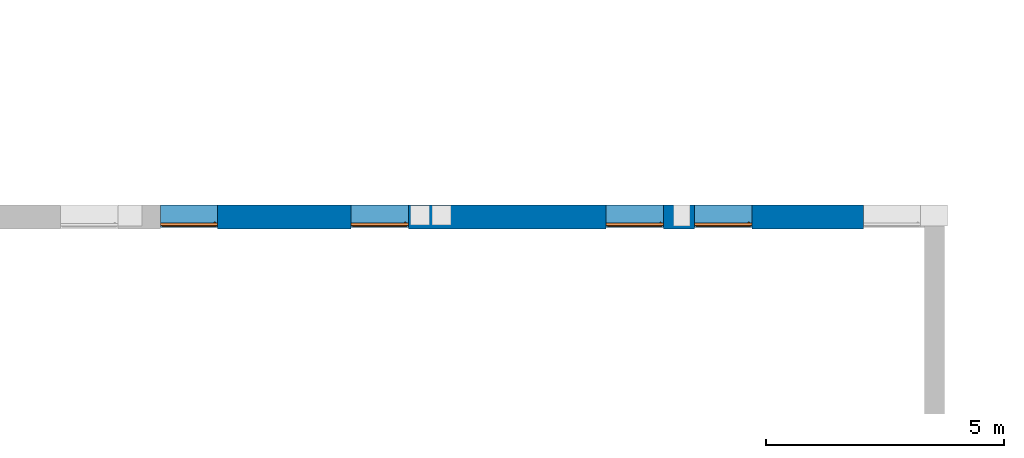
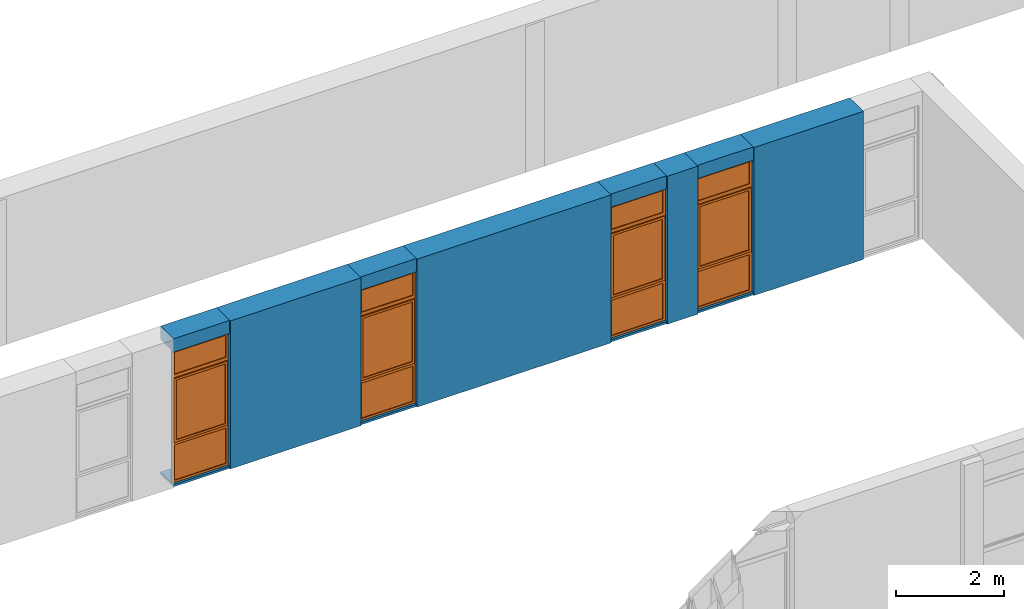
# One storey, part 7 of 11: 8 walls, 4 proxies, 4 openings.
"""IFC2X3 building model written with IfcOpenShell, lengths in millimetres."""

from ifc_helpers import new_model, entity, si_unit, converted_unit, derived_unit, money_unit, direction, frame, origin_with_axes, origin_2d_with_axis, place, context, subcontext, project, spatial, polyline, rectangle, outline, extrude, open_shell, faceted_brep, surface_model, source, transform, mapped, material, layer, layer_set, layer_usage, type_object, element, fill, save


model = new_model("IFC2X3")

# Units and contexts
model_context = context("Model", 3, precision=0.01, world=origin_with_axes(), true_north=direction((0.0, 1.0)))
body_context = subcontext(model_context, "Body", "Model", "MODEL_VIEW")
ifc_project = project(units=[si_unit("LENGTHUNIT", "METRE", prefix="MILLI"), si_unit("AREAUNIT", "SQUARE_METRE"), si_unit("VOLUMEUNIT", "CUBIC_METRE"), converted_unit("PLANEANGLEUNIT", "DEGREE", entity("IfcPlaneAngleMeasure", 0.0174532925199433), si_unit("PLANEANGLEUNIT", "RADIAN"), dimensions=[0, 0, 0, 0, 0, 0, 0]), money_unit("USD"), converted_unit("TIMEUNIT", "Year", entity("IfcTimeMeasure", 31557600.0), si_unit("TIMEUNIT", "SECOND"), dimensions=[0, 0, 1, 0, 0, 0, 0]), si_unit("MASSUNIT", "GRAM", prefix="KILO"), si_unit("THERMODYNAMICTEMPERATUREUNIT", "DEGREE_CELSIUS"), si_unit("LUMINOUSINTENSITYUNIT", "LUMEN"), si_unit("ENERGYUNIT", "JOULE", prefix="MEGA"), derived_unit("THERMALCONDUCTANCEUNIT", [(si_unit("POWERUNIT", "WATT"), 1), (si_unit("LENGTHUNIT", "METRE"), -1), (si_unit("THERMODYNAMICTEMPERATUREUNIT", "KELVIN"), -1)]), derived_unit("SPECIFICHEATCAPACITYUNIT", [(si_unit("ENERGYUNIT", "JOULE"), 1), (si_unit("MASSUNIT", "GRAM", prefix="KILO"), -1), (si_unit("THERMODYNAMICTEMPERATUREUNIT", "KELVIN"), -1)]), derived_unit("MASSDENSITYUNIT", [(si_unit("MASSUNIT", "GRAM", prefix="KILO"), 1), (si_unit("VOLUMEUNIT", "CUBIC_METRE"), -1)])], contexts=[model_context])

# Site, building, storey
site_placement = place(None, origin_with_axes())
site = spatial("IfcSite", under=ifc_project, at=site_placement, Name="Sitio", CompositionType="ELEMENT")
building_placement = place(site_placement, origin_with_axes())
building = spatial("IfcBuilding", under=site, at=building_placement, Name="Construcción", CompositionType="ELEMENT")
storey_placement = place(building_placement, frame((0.0, 0.0, -3650.0), z_axis=(0.0, 0.0, 1.0), x_axis=(1.0, 0.0, 0.0)))
storey = spatial("IfcBuildingStorey", under=building, at=storey_placement, Name="-1. Piso", CompositionType="ELEMENT", Elevation=-3650.0)

# Wall, opening, proxy
ifc_material_1 = material(Name="ARQ_AM246_Arrebossat_De_Guix")
ifc_layer_1 = layer(ifc_material_1, 10.0, ventilated="UNKNOWN")
ifc_material_2 = material(Name="ARQ_CE217_Gero")
ifc_layer_2 = layer(ifc_material_2, 120.0, ventilated="UNKNOWN")
ifc_material_3 = material(Name="ARQ_AI031_Aillament_Poliestireno expandido EPS")
ifc_layer_3 = layer(ifc_material_3, 120.0, ventilated="UNKNOWN")
ifc_material_4 = material(Name="ARQ_CE218_Ceramic")
ifc_layer_4 = layer(ifc_material_4, 220.0, ventilated="UNKNOWN")
ifc_layer_5 = layer(ifc_material_1, 10.0, ventilated="UNKNOWN")
ifc_layer_set_1 = layer_set([ifc_layer_1, ifc_layer_2, ifc_layer_3, ifc_layer_4, ifc_layer_5], Name="façana pati CR2 (ampit)")
ifc_layer_usage_1 = layer_usage(ifc_layer_set_1, "AXIS2", "POSITIVE", -480.0)
wall_type_1 = type_object("IfcWallType", Name="façana pati CR2 (ampit) 480", PredefinedType="NOTDEFINED")
wall_1_placement = place(storey_placement, frame((-6925.999673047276, -1193.975823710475, 0.0), z_axis=(0.0, 0.0, 1.0), x_axis=(1.0, 0.0, 0.0)))
wall_1 = element("IfcWallStandardCase", 1, at=wall_1_placement, inside=storey, type_object=wall_type_1, material=ifc_layer_usage_1, Name="MS-200", context=body_context, shape_type="SweptSolid", body=[
    extrude(outline(polyline([(0.0, -480.0), (1199.999999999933, -480.0), (1199.999999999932, 0.0), (0.0, 0.0), (0.0, -480.0)])), origin_with_axes(), (0.0, 0.0, 1.0), 3350.0),
])
opening_1_placement = place(wall_1_placement, frame((599.9999999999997, 0.0, 49.99999999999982), z_axis=(0.0, 0.0, 1.0), x_axis=(1.0, 0.0, 0.0)))
opening_1 = element("IfcOpeningElement", 2, at=opening_1_placement, cuts=wall_1, Name="V - 008", context=body_context, shape_type="SweptSolid", body=[
    extrude(rectangle(XDim=1199.999999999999, YDim=3000.0, at=origin_2d_with_axis()), frame((0.0, -429.9999999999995, 1500.0), z_axis=(0.0, -1.0, 0.0), x_axis=(-1.0, 0.0, 0.0)), (0.0, 0.0, -1.0), 909.9999999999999),
    extrude(rectangle(XDim=1199.999999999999, YDim=3000.0, at=origin_2d_with_axis()), frame((0.0, -429.9999999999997, 1500.0), z_axis=(0.0, 1.0, 0.0), x_axis=(-1.0, 0.0, 0.0)), (0.0, 0.0, -1.0), 530.0),
])
building_element_proxy_type = type_object("IfcBuildingElementProxyType", Name="Ventana Vertical Multi-Faja 27", PredefinedType="NOTDEFINED")
shared_shape = source(origin_with_axes(), body_context, "Body", "SurfaceModel", [
    faceted_brep([(-575.0, 0.0, 925.0), (-549.9999999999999, 0.0, 925.0), (-549.9999999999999, 0.0, 850.0), (-549.9999999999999, 0.0, 50.00000000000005), (-600.0, 0.0, 50.00000000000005), (-600.0, 0.0, 2950.0), (-549.9999999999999, 0.0, 2950.0), (-549.9999999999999, 0.0, 2450.0), (-549.9999999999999, 0.0, 2375.0), (-575.0, 0.0, 2375.0), (-575.0, -25.00000000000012, 925.0), (-549.9999999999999, -25.00000000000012, 925.0), (-549.9999999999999, -25.00000000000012, 950.0000000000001), (-549.9999999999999, -50.00000000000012, 950.0000000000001), (-549.9999999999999, -50.00000000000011, 850.0), (-549.9999999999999, -50.00000000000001, 50.00000000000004), (-600.0, -50.00000000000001, 50.00000000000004), (-600.0, -50.00000000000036, 2950.0), (-549.9999999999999, -50.00000000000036, 2950.0), (-549.9999999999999, -50.0000000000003, 2450.0), (-550.0, -25.00000000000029, 2375.0), (-549.9999999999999, -50.00000000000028, 2350.0), (-549.9999999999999, -25.00000000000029, 2350.0), (-575.0, -25.00000000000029, 2375.0)], [[[0, 1, 2, 3, 4, 5, 6, 7, 8, 9]], [[0, 10, 11, 1]], [[11, 12, 13, 14, 2, 1]], [[3, 2, 14, 15]], [[4, 3, 15, 16]], [[5, 4, 16, 17]], [[6, 5, 17, 18]], [[7, 6, 18, 19]], [[20, 8, 7, 19, 21, 22]], [[20, 23, 9, 8]], [[9, 23, 10, 0]], [[22, 12, 11, 10, 23, 20]], [[22, 21, 13, 12]], [[17, 16, 15, 14, 13, 21, 19, 18]]]),
    faceted_brep([(575.0, 0.0, 925.0), (575.0, 0.0, 2375.0), (549.9999999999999, 0.0, 2375.0), (549.9999999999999, 0.0, 2450.0), (549.9999999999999, 0.0, 2950.0), (600.0, 0.0, 2950.0), (600.0, 0.0, 50.00000000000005), (549.9999999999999, 0.0, 50.00000000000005), (549.9999999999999, 0.0, 850.0), (549.9999999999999, 0.0, 925.0), (575.0, -25.00000000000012, 925.0), (575.0, -25.00000000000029, 2375.0), (549.9999999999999, -25.00000000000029, 2375.0), (549.9999999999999, -25.00000000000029, 2350.0), (549.9999999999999, -50.00000000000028, 2350.0), (549.9999999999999, -50.0000000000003, 2450.0), (549.9999999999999, -50.00000000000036, 2950.0), (600.0, -50.00000000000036, 2950.0), (600.0, -50.00000000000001, 50.00000000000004), (549.9999999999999, -50.00000000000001, 50.00000000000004), (549.9999999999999, -50.00000000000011, 850.0), (550.0, -25.00000000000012, 925.0), (549.9999999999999, -50.00000000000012, 950.0000000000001), (549.9999999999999, -25.00000000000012, 950.0000000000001)], [[[0, 1, 2, 3, 4, 5, 6, 7, 8, 9]], [[0, 10, 11, 1]], [[1, 11, 12, 2]], [[12, 13, 14, 15, 3, 2]], [[4, 3, 15, 16]], [[5, 4, 16, 17]], [[6, 5, 17, 18]], [[7, 6, 18, 19]], [[8, 7, 19, 20]], [[21, 9, 8, 20, 22, 23]], [[9, 21, 10, 0]], [[12, 11, 10, 21, 23, 13]], [[23, 22, 14, 13]], [[14, 22, 20, 19, 18, 17, 16, 15]]]),
    faceted_brep([(-549.9999999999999, -25.00000000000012, 950.0000000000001), (-549.9999999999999, -50.00000000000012, 950.0000000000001), (549.9999999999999, -50.00000000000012, 950.0000000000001), (549.9999999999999, -25.00000000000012, 950.0000000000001), (-549.9999999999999, -25.00000000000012, 925.0), (-549.9999999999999, 0.0, 925.0), (-549.9999999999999, 0.0, 850.0), (-549.9999999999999, -50.00000000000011, 850.0), (549.9999999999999, -50.00000000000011, 850.0), (550.0, -25.00000000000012, 925.0), (549.9999999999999, 0.0, 850.0), (549.9999999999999, 0.0, 925.0)], [[[0, 1, 2, 3]], [[4, 5, 6, 7, 1, 0]], [[1, 7, 8, 2]], [[9, 3, 2, 8, 10, 11]], [[9, 4, 0, 3]], [[5, 4, 9, 11]], [[11, 10, 6, 5]], [[6, 10, 8, 7]]]),
    faceted_brep([(-549.9999999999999, 0.0, 2375.0), (-549.9999999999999, 0.0, 2450.0), (549.9999999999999, 0.0, 2450.0), (549.9999999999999, 0.0, 2375.0), (-550.0, -25.00000000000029, 2375.0), (-549.9999999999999, -25.00000000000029, 2350.0), (-549.9999999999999, -50.00000000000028, 2350.0), (-549.9999999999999, -50.0000000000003, 2450.0), (549.9999999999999, -50.0000000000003, 2450.0), (549.9999999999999, -25.00000000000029, 2375.0), (549.9999999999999, -50.00000000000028, 2350.0), (549.9999999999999, -25.00000000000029, 2350.0)], [[[0, 1, 2, 3]], [[4, 5, 6, 7, 1, 0]], [[2, 1, 7, 8]], [[9, 3, 2, 8, 10, 11]], [[9, 4, 0, 3]], [[11, 5, 4, 9]], [[11, 10, 6, 5]], [[7, 6, 10, 8]]]),
    faceted_brep([(549.9999999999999, -50.00000000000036, 2950.0), (549.9999999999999, 0.0, 2950.0), (600.0, 0.0, 2950.0), (600.0, -50.00000000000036, 2950.0), (-549.9999999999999, -50.00000000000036, 2950.0), (-549.9999999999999, 0.0, 2950.0), (-600.0, 0.0, 2950.0), (-600.0, 0.0, 3000.0), (600.0, 0.0, 3000.0), (600.0, -50.00000000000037, 3000.0), (-600.0, -50.00000000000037, 3000.0), (-600.0, -50.00000000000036, 2950.0)], [[[0, 1, 2, 3]], [[4, 5, 1, 0]], [[1, 5, 6, 7, 8, 2]], [[3, 2, 8, 9]], [[0, 3, 9, 10, 11, 4]], [[11, 6, 5, 4]], [[10, 7, 6, 11]], [[9, 8, 7, 10]]]),
    faceted_brep([(-549.9999999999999, -50.00000000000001, 50.0), (-549.9999999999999, 0.0, 50.00000000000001), (-600.0, 0.0, 50.00000000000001), (-600.0, -50.00000000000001, 50.0), (549.9999999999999, -50.00000000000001, 50.0), (549.9999999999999, 0.0, 50.00000000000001), (600.0, 0.0, 50.00000000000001), (600.0, 0.0, 0.0), (-600.0, 0.0, 0.0), (-600.0, -50.0, 0.0), (600.0, -50.0, 0.0), (600.0, -50.00000000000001, 50.0)], [[[0, 1, 2, 3]], [[4, 5, 1, 0]], [[1, 5, 6, 7, 8, 2]], [[3, 2, 8, 9]], [[0, 3, 9, 10, 11, 4]], [[11, 6, 5, 4]], [[10, 7, 6, 11]], [[9, 8, 7, 10]]]),
    surface_model("IfcShellBasedSurfaceModel", [(-549.9999999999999, -35.0, 49.99999999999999), (549.9999999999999, -35.0, 49.99999999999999), (549.9999999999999, -35.0000000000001, 850.0), (-549.9999999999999, -35.0000000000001, 850.0)], [open_shell([[[0, 1, 2, 3]]])]),
    surface_model("IfcShellBasedSurfaceModel", [(-549.9999999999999, -15.0, 49.99999999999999), (-549.9999999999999, -15.0000000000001, 850.0), (549.9999999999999, -15.0000000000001, 850.0), (549.9999999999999, -15.0, 49.99999999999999)], [open_shell([[[0, 1, 2, 3]]])]),
    faceted_brep([(-521.5, -25.00000000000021, 1677.0), (-522.8397459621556, -25.00000000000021, 1682.0), (-522.8397459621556, -37.00000000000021, 1682.0), (-521.5, -37.00000000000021, 1677.0), (-521.5, -25.0000000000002, 1623.0), (-522.8397459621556, -25.0000000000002, 1618.0), (-526.5, -25.0000000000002, 1614.339745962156), (-531.5, -25.0000000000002, 1613.0), (-543.5, -25.0000000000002, 1613.0), (-548.5, -25.0000000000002, 1614.339745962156), (-552.1602540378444, -25.0000000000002, 1618.0), (-553.5, -25.0000000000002, 1623.0), (-553.5, -25.00000000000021, 1677.0), (-552.1602540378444, -25.00000000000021, 1682.0), (-548.5, -25.00000000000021, 1685.660254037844), (-543.5, -25.00000000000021, 1687.0), (-531.5, -25.00000000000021, 1687.0), (-526.5, -25.00000000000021, 1685.660254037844), (-526.5, -37.00000000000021, 1685.660254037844), (-531.5, -37.00000000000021, 1687.0), (-543.5, -37.00000000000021, 1687.0), (-548.5, -37.00000000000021, 1685.660254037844), (-552.1602540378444, -37.00000000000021, 1682.0), (-553.5, -37.00000000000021, 1677.0), (-553.5, -37.0000000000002, 1623.0), (-552.1602540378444, -37.0000000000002, 1618.0), (-548.5, -37.0000000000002, 1614.339745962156), (-543.5, -37.0000000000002, 1613.0), (-531.5, -37.0000000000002, 1613.0), (-526.5, -37.0000000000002, 1614.339745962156), (-522.8397459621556, -37.0000000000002, 1618.0), (-521.5, -37.0000000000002, 1623.0)], [[[0, 1, 2, 3]], [[0, 4, 5, 6, 7, 8, 9, 10, 11, 12, 13, 14, 15, 16, 17, 1]], [[1, 17, 18, 2]], [[3, 2, 18, 19, 20, 21, 22, 23, 24, 25, 26, 27, 28, 29, 30, 31]], [[4, 0, 3, 31]], [[5, 4, 31, 30]], [[6, 5, 30, 29]], [[7, 6, 29, 28]], [[8, 7, 28, 27]], [[9, 8, 27, 26]], [[10, 9, 26, 25]], [[11, 10, 25, 24]], [[12, 11, 24, 23]], [[13, 12, 23, 22]], [[14, 13, 22, 21]], [[15, 14, 21, 20]], [[16, 15, 20, 19]], [[17, 16, 19, 18]]]),
    faceted_brep([(-537.5, -37.0000000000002, 1663.5), (-544.25, -37.0000000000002, 1661.69134295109), (-544.25, -61.00000000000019, 1661.69134295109), (-537.5, -61.00000000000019, 1663.5), (-530.75, -37.0000000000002, 1661.69134295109), (-525.80865704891, -37.0000000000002, 1656.75), (-524.0, -37.0000000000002, 1650.0), (-525.8086570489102, -37.0000000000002, 1643.25), (-530.75, -37.0000000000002, 1638.30865704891), (-537.5, -37.0000000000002, 1636.5), (-544.25, -37.0000000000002, 1638.30865704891), (-549.19134295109, -37.0000000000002, 1643.25), (-550.9999999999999, -37.0000000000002, 1650.0), (-549.1913429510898, -37.0000000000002, 1656.75), (-549.1913429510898, -61.00000000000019, 1656.75), (-550.9999999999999, -61.00000000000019, 1650.0), (-549.19134295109, -61.00000000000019, 1643.25), (-544.25, -61.00000000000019, 1638.30865704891), (-537.5, -61.00000000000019, 1636.5), (-530.75, -61.00000000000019, 1638.30865704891), (-525.8086570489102, -61.00000000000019, 1643.25), (-524.0, -61.00000000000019, 1650.0), (-525.80865704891, -61.00000000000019, 1656.75), (-530.75, -61.00000000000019, 1661.69134295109)], [[[0, 1, 2, 3]], [[0, 4, 5, 6, 7, 8, 9, 10, 11, 12, 13, 1]], [[1, 13, 14, 2]], [[3, 2, 14, 15, 16, 17, 18, 19, 20, 21, 22, 23]], [[4, 0, 3, 23]], [[5, 4, 23, 22]], [[6, 5, 22, 21]], [[7, 6, 21, 20]], [[8, 7, 20, 19]], [[9, 8, 19, 18]], [[10, 9, 18, 17]], [[11, 10, 17, 16]], [[12, 11, 16, 15]], [[13, 12, 15, 14]]]),
    faceted_brep([(-526.0, -61.00000000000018, 1543.0), (-537.5, -61.00000000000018, 1540.0), (-548.9999999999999, -61.00000000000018, 1543.0), (-550.9999999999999, -61.00000000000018, 1546.0), (-550.9999999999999, -61.00000000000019, 1650.0), (-549.1913429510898, -61.00000000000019, 1656.75), (-544.25, -61.00000000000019, 1661.69134295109), (-537.5, -61.00000000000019, 1663.5), (-530.75, -61.00000000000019, 1661.69134295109), (-525.80865704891, -61.00000000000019, 1656.75), (-524.0, -61.00000000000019, 1650.0), (-524.0, -61.00000000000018, 1546.0), (-525.9999999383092, -69.00000000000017, 1543.000000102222), (-537.499999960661, -69.00000000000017, 1539.999999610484), (-548.9999999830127, -69.00000000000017, 1543.000000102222), (-551.0000003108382, -69.00000000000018, 1545.999999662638), (-551.0000003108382, -69.0000000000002, 1649.99999994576), (-549.1913429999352, -69.0000000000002, 1656.749999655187), (-544.2499996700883, -69.0000000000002, 1661.691342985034), (-537.499999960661, -69.0000000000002, 1663.500000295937), (-530.7500002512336, -69.0000000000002, 1661.691342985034), (-525.8086569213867, -69.0000000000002, 1656.749999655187), (-523.9999996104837, -69.0000000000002, 1649.99999994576), (-523.9999996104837, -69.00000000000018, 1545.999999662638), (-527.8625374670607, -71.99999956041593, 1545.61451963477), (-537.499999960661, -71.99999956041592, 1543.100398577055), (-547.1374624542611, -71.99999956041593, 1545.61451963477), (-548.0000007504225, -71.99999956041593, 1546.908326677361), (-548.0000007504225, -71.99999956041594, 1649.605042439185), (-546.5016170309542, -71.99999956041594, 1655.197085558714), (-542.6970855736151, -71.99999956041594, 1659.001617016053), (-537.499999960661, -71.99999956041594, 1660.394172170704), (-532.3029143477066, -71.99999956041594, 1659.001617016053), (-528.4983828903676, -71.99999956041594, 1655.197085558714), (-526.9999991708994, -71.99999956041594, 1649.605042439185), (-526.9999991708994, -71.99999956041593, 1546.908326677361)], [[[0, 1, 2, 3, 4, 5, 6, 7, 8, 9, 10, 11]], [[1, 0, 12, 13]], [[2, 1, 13, 14]], [[3, 2, 14, 15]], [[4, 3, 15, 16]], [[5, 4, 16, 17]], [[6, 5, 17, 18]], [[7, 6, 18, 19]], [[8, 7, 19, 20]], [[9, 8, 20, 21]], [[10, 9, 21, 22]], [[11, 10, 22, 23]], [[0, 11, 23, 12]], [[13, 12, 24, 25]], [[14, 13, 25, 26]], [[15, 14, 26, 27]], [[16, 15, 27, 28]], [[17, 16, 28, 29]], [[18, 17, 29, 30]], [[19, 18, 30, 31]], [[20, 19, 31, 32]], [[21, 20, 32, 33]], [[22, 21, 33, 34]], [[23, 22, 34, 35]], [[12, 23, 35, 24]], [[26, 25, 24, 35, 34, 33, 32, 31, 30, 29, 28, 27]]]),
    faceted_brep([(-524.9999999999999, -25.00000000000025, 2325.0), (-524.9999999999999, 24.99999999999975, 2325.0), (-575.0, 24.99999999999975, 2325.0), (-575.0, -25.00000000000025, 2325.0), (-524.9999999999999, -25.00000000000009, 975.0000000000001), (-524.9999999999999, 24.99999999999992, 975.0000000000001), (-575.0, 24.99999999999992, 975.0000000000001), (-575.0, -25.00000000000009, 975.0000000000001)], [[[0, 1, 2, 3]], [[4, 5, 1, 0]], [[1, 5, 6, 2]], [[3, 2, 6, 7]], [[0, 3, 7, 4]], [[7, 6, 5, 4]]]),
    faceted_brep([(524.9999999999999, -25.00000000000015, 975.0000000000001), (524.9999999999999, 24.99999999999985, 975.0000000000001), (575.0, 24.99999999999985, 975.0000000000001), (575.0, -25.00000000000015, 975.0000000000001), (524.9999999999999, -25.00000000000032, 2325.0), (524.9999999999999, 24.99999999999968, 2325.0), (575.0, 24.99999999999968, 2325.0), (575.0, -25.00000000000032, 2325.0)], [[[0, 1, 2, 3]], [[4, 5, 1, 0]], [[1, 5, 6, 2]], [[3, 2, 6, 7]], [[0, 3, 7, 4]], [[7, 6, 5, 4]]]),
    faceted_brep([(575.0, -25.00000000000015, 925.0), (575.0, 24.99999999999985, 925.0), (575.0, 24.99999999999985, 975.0000000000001), (575.0, -25.00000000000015, 975.0000000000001), (-575.0, -25.00000000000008, 925.0), (-575.0, 24.99999999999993, 925.0), (-575.0, 24.99999999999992, 975.0000000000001), (-524.9999999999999, 24.99999999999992, 975.0000000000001), (524.9999999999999, 24.99999999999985, 975.0000000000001), (524.9999999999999, -25.00000000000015, 975.0000000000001), (-524.9999999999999, -25.00000000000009, 975.0000000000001), (-575.0, -25.00000000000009, 975.0000000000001)], [[[0, 1, 2, 3]], [[4, 5, 1, 0]], [[1, 5, 6, 7, 8, 2]], [[3, 2, 8, 9]], [[0, 3, 9, 10, 11, 4]], [[11, 6, 5, 4]], [[10, 7, 6, 11]], [[9, 8, 7, 10]]]),
    faceted_brep([(-575.0, -25.00000000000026, 2375.0), (-575.0, 24.99999999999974, 2375.0), (-575.0, 24.99999999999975, 2325.0), (-575.0, -25.00000000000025, 2325.0), (575.0, -25.00000000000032, 2375.0), (575.0, 24.99999999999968, 2375.0), (575.0, 24.99999999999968, 2325.0), (524.9999999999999, 24.99999999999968, 2325.0), (-524.9999999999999, 24.99999999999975, 2325.0), (-524.9999999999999, -25.00000000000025, 2325.0), (524.9999999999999, -25.00000000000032, 2325.0), (575.0, -25.00000000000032, 2325.0)], [[[0, 1, 2, 3]], [[4, 5, 1, 0]], [[1, 5, 6, 7, 8, 2]], [[3, 2, 8, 9]], [[0, 3, 9, 10, 11, 4]], [[11, 6, 5, 4]], [[10, 7, 6, 11]], [[9, 8, 7, 10]]]),
    surface_model("IfcShellBasedSurfaceModel", [(-524.9999999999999, -10.00000000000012, 975.0000000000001), (524.9999999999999, -10.00000000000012, 975.0000000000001), (524.9999999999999, -10.00000000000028, 2325.0), (-524.9999999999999, -10.00000000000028, 2325.0)], [open_shell([[[0, 1, 2, 3]]])]),
    surface_model("IfcShellBasedSurfaceModel", [(-524.9999999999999, 9.999999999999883, 975.0000000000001), (-524.9999999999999, 9.99999999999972, 2325.0), (524.9999999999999, 9.99999999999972, 2325.0), (524.9999999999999, 9.999999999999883, 975.0000000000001)], [open_shell([[[0, 1, 2, 3]]])]),
    surface_model("IfcShellBasedSurfaceModel", [(-549.9999999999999, -35.0000000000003, 2450.0), (549.9999999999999, -35.0000000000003, 2450.0), (549.9999999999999, -35.00000000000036, 2950.0), (-549.9999999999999, -35.00000000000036, 2950.0)], [open_shell([[[0, 1, 2, 3]]])]),
    surface_model("IfcShellBasedSurfaceModel", [(-549.9999999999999, -15.0000000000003, 2450.0), (-549.9999999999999, -15.00000000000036, 2950.0), (549.9999999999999, -15.00000000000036, 2950.0), (549.9999999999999, -15.0000000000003, 2450.0)], [open_shell([[[0, 1, 2, 3]]])]),
])
proxy_1_placement = place(opening_1_placement, frame((599.9999999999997, 0.0, 0.0), z_axis=(0.0, 0.0, 1.0), x_axis=(-1.0, 0.0, 0.0)))
proxy_1 = element("IfcBuildingElementProxy", 3, at=proxy_1_placement, inside=storey, type_object=building_element_proxy_type, Name="V - 008", context=body_context, shape_type="MappedRepresentation", body=[
    mapped(shared_shape, transform((599.9999999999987, 429.9999999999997, 0.0))),
])
fill(opening_1, proxy_1)

ifc_layer_usage_2 = layer_usage(ifc_layer_set_1, "AXIS2", "POSITIVE", -480.0)
wall_2_placement = place(storey_placement, frame((-18136.43135579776, -1193.975823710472, 0.0), z_axis=(0.0, 0.0, 1.0), x_axis=(1.0, 0.0, 0.0)))
wall_2 = element("IfcWallStandardCase", 4, at=wall_2_placement, inside=storey, type_object=wall_type_1, material=ifc_layer_usage_2, Name="MS-200", context=body_context, shape_type="SweptSolid", body=[
    extrude(outline(polyline([(0.0, -480.0), (1200.000000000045, -480.0), (1200.000000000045, 0.0), (0.0, 0.0), (0.0, -480.0)])), origin_with_axes(), (0.0, 0.0, 1.0), 3350.0),
])
opening_2_placement = place(wall_2_placement, frame((600.0000000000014, 0.0, 49.99999999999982), z_axis=(0.0, 0.0, 1.0), x_axis=(1.0, 0.0, 0.0)))
opening_2 = element("IfcOpeningElement", 5, at=opening_2_placement, cuts=wall_2, Name="V - 008", context=body_context, shape_type="SweptSolid", body=[
    extrude(rectangle(XDim=1200.000000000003, YDim=3000.0, at=origin_2d_with_axis()), frame((0.0, -429.9999999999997, 1500.0), z_axis=(0.0, -1.0, 0.0), x_axis=(-1.0, 0.0, 0.0)), (0.0, 0.0, -1.0), 909.9999999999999),
    extrude(rectangle(XDim=1200.000000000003, YDim=3000.0, at=origin_2d_with_axis()), frame((0.0, -429.9999999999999, 1500.0), z_axis=(0.0, 1.0, 0.0), x_axis=(-1.0, 0.0, 0.0)), (0.0, 0.0, -1.0), 530.0),
])
proxy_2_placement = place(opening_2_placement, frame((600.0000000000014, 0.0, 0.0), z_axis=(0.0, 0.0, 1.0), x_axis=(-1.0, 0.0, 0.0)))
proxy_2 = element("IfcBuildingElementProxy", 6, at=proxy_2_placement, inside=storey, type_object=building_element_proxy_type, Name="V - 008", context=body_context, shape_type="MappedRepresentation", body=[
    mapped(shared_shape, transform((600.0000000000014, 430.0000000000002, 0.0))),
])
fill(opening_2, proxy_2)

ifc_layer_usage_3 = layer_usage(ifc_layer_set_1, "AXIS2", "POSITIVE", -480.0)
wall_3_placement = place(storey_placement, frame((-8781.931355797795, -1193.975823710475, 0.0), z_axis=(0.0, 0.0, 1.0), x_axis=(1.0, 0.0, 0.0)))
wall_3 = element("IfcWallStandardCase", 7, at=wall_3_placement, inside=storey, type_object=wall_type_1, material=ifc_layer_usage_3, Name="MS-200", context=body_context, shape_type="SweptSolid", body=[
    extrude(outline(polyline([(0.0, -480.0), (1199.999999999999, -480.0), (1199.999999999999, 0.0), (0.0, 0.0), (0.0, -480.0)])), origin_with_axes(), (0.0, 0.0, 1.0), 3350.0),
])
opening_3_placement = place(wall_3_placement, frame((599.9999999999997, 0.0, 49.99999999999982), z_axis=(0.0, 0.0, 1.0), x_axis=(1.0, 0.0, 0.0)))
opening_3 = element("IfcOpeningElement", 8, at=opening_3_placement, cuts=wall_3, Name="V - 008", context=body_context, shape_type="SweptSolid", body=[
    extrude(rectangle(XDim=1199.999999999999, YDim=3000.0, at=origin_2d_with_axis()), frame((0.0, -429.9999999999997, 1500.0), z_axis=(0.0, -1.0, 0.0), x_axis=(-1.0, 0.0, 0.0)), (0.0, 0.0, -1.0), 909.9999999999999),
    extrude(rectangle(XDim=1199.999999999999, YDim=3000.0, at=origin_2d_with_axis()), frame((0.0, -429.9999999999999, 1500.0), z_axis=(0.0, 1.0, 0.0), x_axis=(-1.0, 0.0, 0.0)), (0.0, 0.0, -1.0), 530.0),
])
proxy_3_placement = place(opening_3_placement, frame((599.9999999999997, 0.0, 0.0), z_axis=(0.0, 0.0, 1.0), x_axis=(-1.0, 0.0, 0.0)))
proxy_3 = element("IfcBuildingElementProxy", 9, at=proxy_3_placement, inside=storey, type_object=building_element_proxy_type, Name="V - 008", context=body_context, shape_type="MappedRepresentation", body=[
    mapped(shared_shape, transform((599.9999999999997, 429.9999999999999, 0.0))),
])
fill(opening_3, proxy_3)

ifc_layer_usage_4 = layer_usage(ifc_layer_set_1, "AXIS2", "POSITIVE", -480.0)
wall_4_placement = place(storey_placement, frame((-14135.93135579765, -1193.975823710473, 0.0), z_axis=(0.0, 0.0, 1.0), x_axis=(1.0, 0.0, 0.0)))
wall_4 = element("IfcWallStandardCase", 10, at=wall_4_placement, inside=storey, type_object=wall_type_1, material=ifc_layer_usage_4, Name="MS-200", context=body_context, shape_type="SweptSolid", body=[
    extrude(outline(polyline([(0.0, -480.0), (1200.000000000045, -480.0), (1200.000000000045, 0.0), (0.0, 0.0), (0.0, -480.0)])), origin_with_axes(), (0.0, 0.0, 1.0), 3350.0),
])
opening_4_placement = place(wall_4_placement, frame((599.9999999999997, 0.0, 49.99999999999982), z_axis=(0.0, 0.0, 1.0), x_axis=(1.0, 0.0, 0.0)))
opening_4 = element("IfcOpeningElement", 11, at=opening_4_placement, cuts=wall_4, Name="V - 008", context=body_context, shape_type="SweptSolid", body=[
    extrude(rectangle(XDim=1199.999999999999, YDim=3000.0, at=origin_2d_with_axis()), frame((0.0, -429.9999999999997, 1500.0), z_axis=(0.0, -1.0, 0.0), x_axis=(-1.0, 0.0, 0.0)), (0.0, 0.0, -1.0), 909.9999999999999),
    extrude(rectangle(XDim=1199.999999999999, YDim=3000.0, at=origin_2d_with_axis()), frame((0.0, -429.9999999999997, 1500.0), z_axis=(0.0, 1.0, 0.0), x_axis=(-1.0, 0.0, 0.0)), (0.0, 0.0, -1.0), 530.0),
])
proxy_4_placement = place(opening_4_placement, frame((599.9999999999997, 0.0, 0.0), z_axis=(0.0, 0.0, 1.0), x_axis=(-1.0, 0.0, 0.0)))
proxy_4 = element("IfcBuildingElementProxy", 12, at=proxy_4_placement, inside=storey, type_object=building_element_proxy_type, Name="V - 008", context=body_context, shape_type="MappedRepresentation", body=[
    mapped(shared_shape, transform((599.9999999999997, 429.9999999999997, 0.0))),
])
fill(opening_4, proxy_4)

# Walls
ifc_layer_6 = layer(ifc_material_2, 10.0, ventilated="UNKNOWN")
ifc_layer_7 = layer(ifc_material_2, 90.0, ventilated="UNKNOWN")
ifc_layer_8 = layer(ifc_material_3, 180.0, ventilated="UNKNOWN")
ifc_layer_9 = layer(ifc_material_4, 215.0, ventilated="UNKNOWN")
ifc_layer_10 = layer(ifc_material_1, 10.0, ventilated="UNKNOWN")
ifc_layer_set_2 = layer_set([ifc_layer_6, ifc_layer_7, ifc_layer_8, ifc_layer_9, ifc_layer_10], Name="façana pati CR2")
ifc_layer_usage_5 = layer_usage(ifc_layer_set_2, "AXIS2", "POSITIVE", -505.0)
wall_type_2 = type_object("IfcWallType", Name="façana pati CR2 505", PredefinedType="NOTDEFINED")
wall_5_placement = place(storey_placement, frame((-7581.931355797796, -1193.975823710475, 0.0), z_axis=(0.0, 0.0, 1.0), x_axis=(1.0, 0.0, 0.0)))
element("IfcWallStandardCase", 13, at=wall_5_placement, inside=storey, type_object=wall_type_2, material=ifc_layer_usage_5, Name="MS-200", context=body_context, shape_type="SweptSolid", body=[
    extrude(outline(polyline([(0.0, -504.9999999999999), (655.9316827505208, -505.0000000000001), (655.9316827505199, 0.0), (0.0, 0.0), (0.0, -504.9999999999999)])), origin_with_axes(), (0.0, 0.0, 1.0), 3350.0),
])
ifc_layer_usage_6 = layer_usage(ifc_layer_set_2, "AXIS2", "POSITIVE", -505.0)
wall_6_placement = place(storey_placement, frame((-5725.999673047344, -1193.975823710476, 0.0), z_axis=(0.0, 0.0, 1.0), x_axis=(1.0, 0.0, 0.0)))
element("IfcWallStandardCase", 14, at=wall_6_placement, inside=storey, type_object=wall_type_2, material=ifc_layer_usage_6, Name="MS-200", context=body_context, shape_type="SweptSolid", body=[
    extrude(outline(polyline([(0.0, -505.0000000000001), (2342.56831724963, -504.9999999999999), (2342.56831724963, 0.0), (0.0, 0.0), (0.0, -505.0000000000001)])), origin_with_axes(), (0.0, 0.0, 1.0), 3350.0),
])
ifc_layer_usage_7 = layer_usage(ifc_layer_set_2, "AXIS2", "POSITIVE", -505.0)
wall_7_placement = place(storey_placement, frame((-16936.43135579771, -1193.975823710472, 0.0), z_axis=(0.0, 0.0, 1.0), x_axis=(1.0, 0.0, 0.0)))
element("IfcWallStandardCase", 15, at=wall_7_placement, inside=storey, type_object=wall_type_2, material=ifc_layer_usage_7, Name="MS-200", context=body_context, shape_type="SweptSolid", body=[
    extrude(outline(polyline([(0.0, -504.9999999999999), (2800.500000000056, -504.9999999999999), (2800.500000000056, 0.0), (0.0, 0.0), (0.0, -504.9999999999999)])), origin_with_axes(), (0.0, 0.0, 1.0), 3350.0),
])
ifc_layer_usage_8 = layer_usage(ifc_layer_set_2, "AXIS2", "POSITIVE", -505.0)
wall_8_placement = place(storey_placement, frame((-12935.93135579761, -1193.975823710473, 0.0), z_axis=(0.0, 0.0, 1.0), x_axis=(1.0, 0.0, 0.0)))
element("IfcWallStandardCase", 16, at=wall_8_placement, inside=storey, type_object=wall_type_2, material=ifc_layer_usage_8, Name="MS-200", context=body_context, shape_type="SweptSolid", body=[
    extrude(outline(polyline([(0.0, -505.0000000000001), (4153.999999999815, -505.0000000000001), (4153.999999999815, 0.0), (0.0, 0.0), (0.0, -505.0000000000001)])), origin_with_axes(), (0.0, 0.0, 1.0), 3350.0),
])

save(model, "model.ifc")
